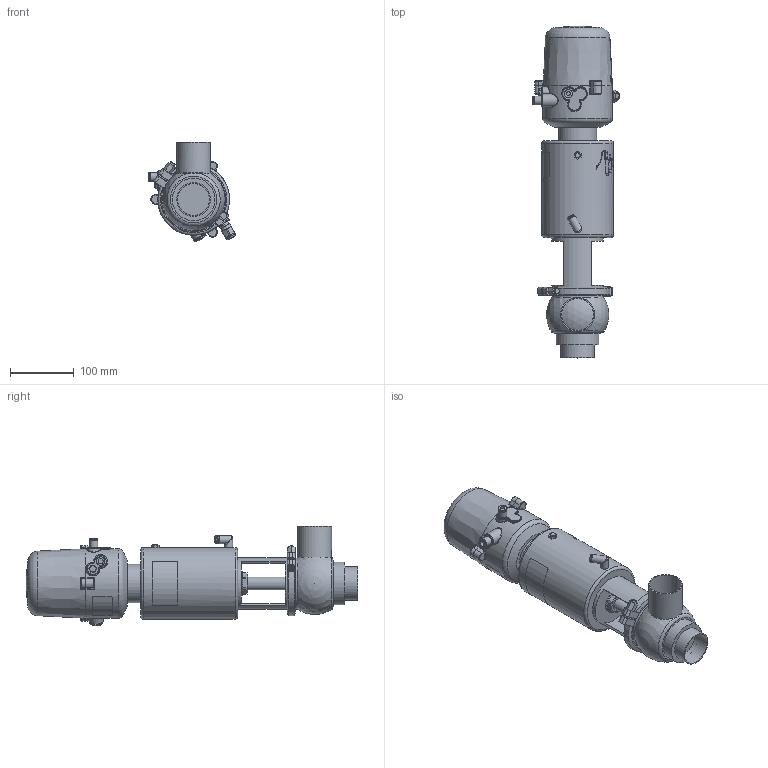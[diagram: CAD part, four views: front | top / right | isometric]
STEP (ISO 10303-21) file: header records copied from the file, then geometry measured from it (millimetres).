
FILE_DESCRIPTION (( 'STEP AP214' ), '1' );
FILE_NAME ('INNOVA N L W DIN 050 T2 AS NC & C-TOP S_10.240.16.0055.STEP', '2024-08-06T08:00:56', ( '' ), ( '' ), 'SwSTEP 2.0', 'SolidWorks 2023', '' );
FILE_SCHEMA (( 'AUTOMOTIVE_DESIGN' ));
Length unit declared in the file: millimetre
Products named in the file (7): 10.426.15.0001_C-TOP S - 1 EV; INNOVA N L W DIN 050 T2 AS NC & C-TOP S_10.240.16.0055; 10.240.15.0014_T2 AS P0; 10.240.15.0010_DN 050; 10.240.15.0002_DIN 050; 10.240.15.0017_Estàndard; 10.240.15.0001_DN 050
Assembly tree (6 placements, depth 2):
  INNOVA N L W DIN 050 T2 AS NC & C-TOP S_10.240.16.0055
    10.240.15.0002_DIN 050
    10.240.15.0010_DN 050
    10.240.15.0014_T2 AS P0
    10.240.15.0017_Estàndard
    10.426.15.0001_C-TOP S - 1 EV
    10.240.15.0001_DN 050
Bounding box: 136.88 x 521 x 156.63 mm (x, y, z)
Volume: 3629678.4 mm3; surface area: 284424.1 mm2
Topology: 6 solids, 6 shells, 1099 faces, 2639 edges, 1760 vertices
Faces by surface type: plane 375, cylinder 330, cone 191, bspline 160, torus 37, sphere 6
Full cylindrical faces by diameter (mm): 0.371 x17, 0.512 x16, 0.658 x16, 0.795 x16, 0.94 x15, 1.098 x15, 1.241 x13, 1.382 x13, 1.523 x11, 1.669 x10, 2.201 x1, 4 x2, 5.5 x2, 6 x2, 6.15 x1, 8 x4, 8.5 x1, 10 x1, 10.5 x1, 11 x2, 12.5 x3, 13 x2, 13.5 x2, 16 x1, 17 x3, 20 x3, 20.5 x1, 22 x2, 31 x1, 34.5 x3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
Entity records: 57749 total; most frequent: CARTESIAN_POINT 27804, ORIENTED_EDGE 4486, DIRECTION 3593, EDGE_CURVE 2243, VERTEX_POINT 1593, EDGE_LOOP 1546, AXIS2_PLACEMENT_3D 1468, FACE_OUTER_BOUND 1311
